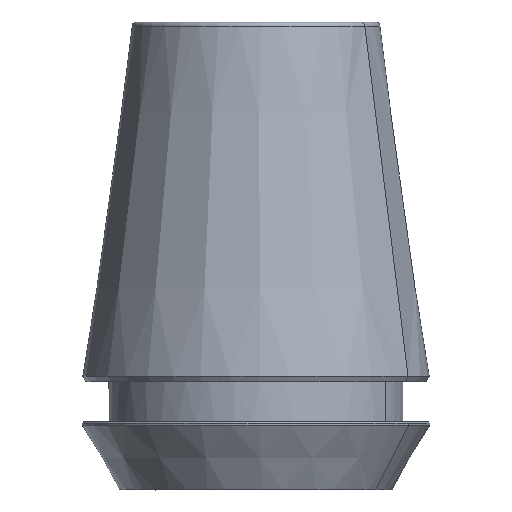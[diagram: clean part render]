
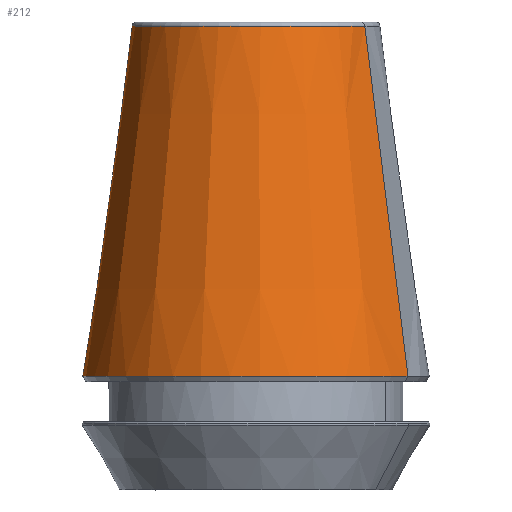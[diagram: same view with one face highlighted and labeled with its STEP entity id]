
A CAD part, front view. The second image highlights one B-rep face of the part: STEP entity #212.
In plain terms, the highlighted conical face has half-angle 8 degrees and reference radius 9.233 mm.
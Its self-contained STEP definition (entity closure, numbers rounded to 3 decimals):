
#104=AXIS2_PLACEMENT_3D('Circle Axis2P3D',#102,#103,$) ;
#137=AXIS2_PLACEMENT_3D('Circle Axis2P3D',#135,#136,$) ;
#198=AXIS2_PLACEMENT_3D('Cone Axis2P3D',#195,#196,#197) ;
#202=AXIS2_PLACEMENT_3D('Circle Axis2P3D',#200,#201,$) ;
#99=CARTESIAN_POINT('Vertex',(-9.216,1.05,-0.3)) ;
#102=CARTESIAN_POINT('Axis2P3D Location',(0.,0.,-0.3)) ;
#106=CARTESIAN_POINT('Vertex',(8.14,-4.447,-0.3)) ;
#132=CARTESIAN_POINT('Vertex',(-8.14,4.447,-0.3)) ;
#135=CARTESIAN_POINT('Axis2P3D Location',(0.,0.,-0.3)) ;
#169=CARTESIAN_POINT('Line Origine',(61071.995,-33363.783,-495101.181)) ;
#173=CARTESIAN_POINT('Vertex',(11.372,-6.212,-26.5)) ;
#180=CARTESIAN_POINT('Vertex',(-11.372,6.212,-26.5)) ;
#183=CARTESIAN_POINT('Line Origine',(-61071.995,33363.783,-495101.181)) ;
#195=CARTESIAN_POINT('Axis2P3D Location',(0.,0.,0.005)) ;
#200=CARTESIAN_POINT('Axis2P3D Location',(0.,0.,-26.5)) ;
#103=DIRECTION('Axis2P3D Direction',(0.,0.,-1.)) ;
#136=DIRECTION('Axis2P3D Direction',(0.,0.,-1.)) ;
#170=DIRECTION('Vector Direction',(0.122,-0.067,-0.99)) ;
#184=DIRECTION('Vector Direction',(-0.122,0.067,-0.99)) ;
#196=DIRECTION('Axis2P3D Direction',(0.,0.,-1.)) ;
#197=DIRECTION('Axis2P3D XDirection',(0.878,-0.479,0.)) ;
#201=DIRECTION('Axis2P3D Direction',(0.,0.,-1.)) ;
#171=VECTOR('Line Direction',#170,1.) ;
#185=VECTOR('Line Direction',#184,1.) ;
#206=ORIENTED_EDGE('',*,*,#187,.F.) ;
#207=ORIENTED_EDGE('',*,*,#204,.F.) ;
#208=ORIENTED_EDGE('',*,*,#175,.T.) ;
#209=ORIENTED_EDGE('',*,*,#108,.T.) ;
#210=ORIENTED_EDGE('',*,*,#139,.T.) ;
#212=ADVANCED_FACE('NOCUT',(#211),#199,.T.) ;
#105=CIRCLE('generated circle',#104,9.276) ;
#138=CIRCLE('generated circle',#137,9.276) ;
#203=CIRCLE('generated circle',#202,12.958) ;
#199=CONICAL_SURFACE('Cone',#198,9.233,0.14) ;
#108=EDGE_CURVE('',#107,#100,#105,.T.) ;
#139=EDGE_CURVE('',#100,#133,#138,.T.) ;
#175=EDGE_CURVE('',#174,#107,#172,.F.) ;
#187=EDGE_CURVE('',#181,#133,#186,.F.) ;
#204=EDGE_CURVE('',#174,#181,#203,.T.) ;
#205=EDGE_LOOP('',(#206,#207,#208,#209,#210)) ;
#211=FACE_OUTER_BOUND('',#205,.T.) ;
#172=LINE('Line',#169,#171) ;
#186=LINE('Line',#183,#185) ;
#100=VERTEX_POINT('',#99) ;
#107=VERTEX_POINT('',#106) ;
#133=VERTEX_POINT('',#132) ;
#174=VERTEX_POINT('',#173) ;
#181=VERTEX_POINT('',#180) ;
